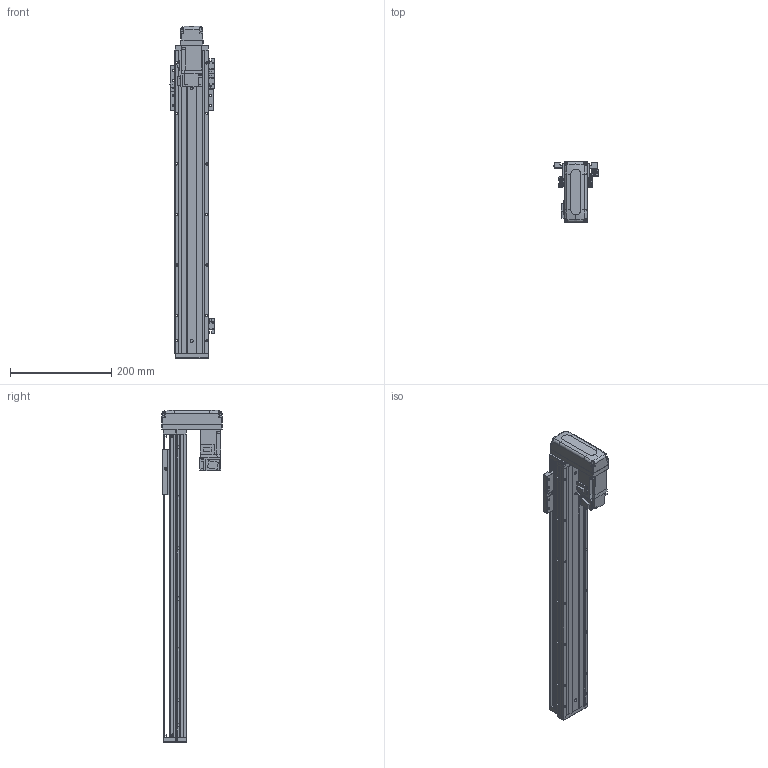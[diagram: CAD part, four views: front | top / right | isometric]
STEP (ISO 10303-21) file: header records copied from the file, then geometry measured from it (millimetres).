
FILE_DESCRIPTION (( 'STEP AP203' ), '1' );
FILE_NAME ('KTHAL60-450-BM-M10-C4L.step', '2022-03-19T08:41:13', ( '微软用户' ), ( '微软中国' ), 'SwSTEP 2.0', 'SolidWorks 2020', '' );
FILE_SCHEMA (( 'CONFIG_CONTROL_DESIGN' ));
Length unit declared in the file: millimetre
Products named in the file (18): CTHA60-033; KTHA60-004; GBT 70.1-M4×16; GBT 70.1-M3×15; KTHA60-005; GBT77-2000M3-3; KTHAL60-450-BM-M10-C4L; GB¨uT 70.2-M3¡Á5_M3¡Á6; GBT 70.1-M3℅6; GBT 70.3-M3℅6; CTHA60-016; EE_SX911P_R; HG-KR13（三菱）; KTHA60-001_600; CTHA60-017; CTHA60-015-2_CTHA60-015-2; KTHLA60-002; CTHA60-021
Assembly tree (51 placements, depth 2):
  KTHAL60-450-BM-M10-C4L
    KTHA60-001_600
    KTHLA60-002
    KTHA60-004
    KTHA60-005
    GB¨uT 70.2-M3¡Á5_M3¡Á6  x5
    GBT 70.3-M3℅6  x4
    EE_SX911P_R  x3
    CTHA60-017  x3
    CTHA60-021  x2
    GBT 70.1-M4×16  x10
    GBT77-2000M3-3  x6
    GBT 70.1-M3℅6  x6
    CTHA60-016
    HG-KR13（三菱）
    CTHA60-015-2_CTHA60-015-2
    CTHA60-033
    GBT 70.1-M3×15  x4
Bounding box: 87.82 x 120 x 657 mm (x, y, z)
Volume: 1452351.6 mm3; surface area: 358675.9 mm2
Topology: 54 solids, 54 shells, 2295 faces, 5443 edges, 3341 vertices
Faces by surface type: plane 1312, cylinder 559, cone 286, torus 98, bspline 26, sphere 14
Entity records: 39993 total; most frequent: CARTESIAN_POINT 7560, DIRECTION 6243, ORIENTED_EDGE 6030, EDGE_CURVE 3015, AXIS2_PLACEMENT_3D 2091, VECTOR 2061, LINE 2061, VERTEX_POINT 1890
